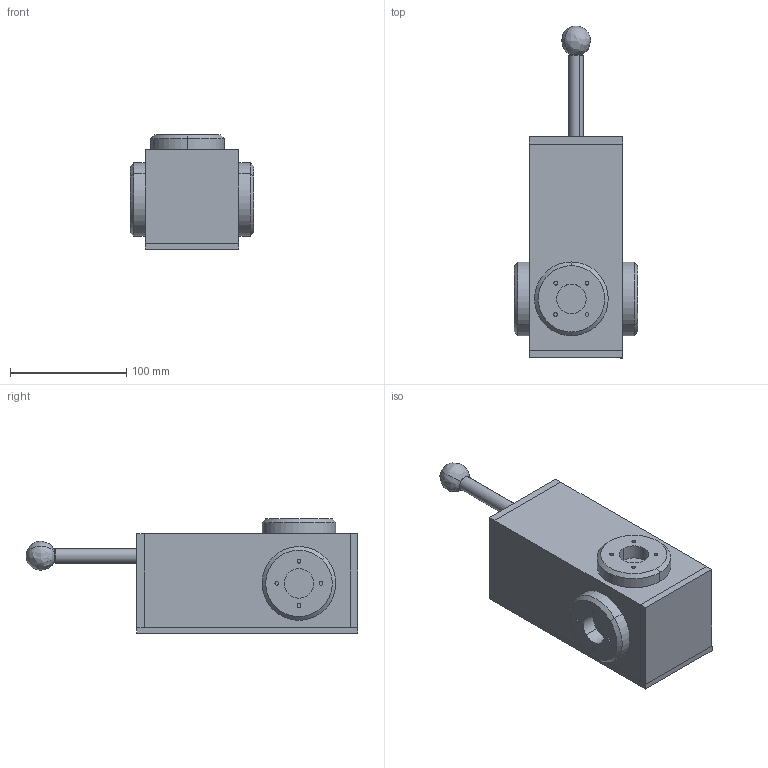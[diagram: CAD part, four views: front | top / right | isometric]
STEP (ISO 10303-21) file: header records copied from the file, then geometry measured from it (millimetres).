
FILE_DESCRIPTION (( 'STEP AP214' ), '1' );
FILE_NAME ('BSU-19-M-RH.STEP', '2016-08-10T14:42:13', ( '' ), ( '' ), 'SwSTEP 2.0', 'SolidWorks 2016', '' );
FILE_SCHEMA (( 'AUTOMOTIVE_DESIGN' ));
Length unit declared in the file: inch
Products named in the file (1): BSU-19-M-RH
Bounding box: 106.36 x 285.9 x 98.42 mm (x, y, z)
Volume: 1436706.8 mm3; surface area: 94202.3 mm2
Topology: 1 solids, 1 shells, 94 faces, 202 edges, 126 vertices
Faces by surface type: plane 43, cylinder 39, cone 8, bspline 4
Entity records: 4257 total; most frequent: CARTESIAN_POINT 2144, DIRECTION 458, ORIENTED_EDGE 396, EDGE_CURVE 198, AXIS2_PLACEMENT_3D 179, VERTEX_POINT 126, EDGE_LOOP 114, LINE 100
